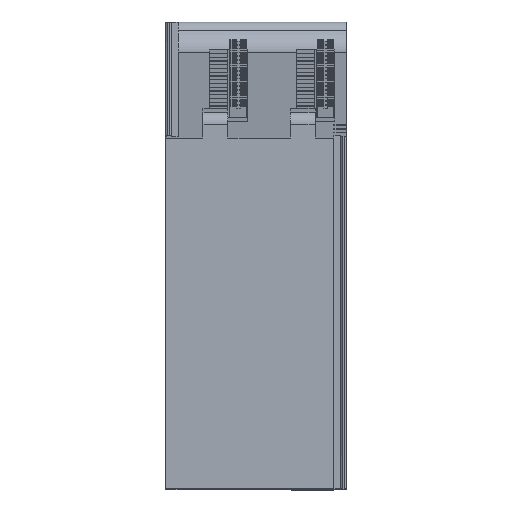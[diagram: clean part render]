
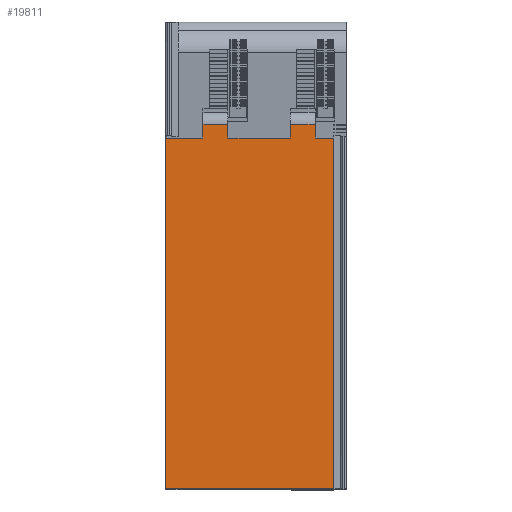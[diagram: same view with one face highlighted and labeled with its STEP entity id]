
A CAD part, top view. The second image highlights one B-rep face of the part: STEP entity #19811.
In plain terms, the highlighted planar face has unit normal (0, 0, 1).
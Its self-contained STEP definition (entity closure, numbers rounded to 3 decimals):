
#1621 = ORIENTED_EDGE ( 'NONE', *, *, #38552, .F. ) ;
#1931 = CARTESIAN_POINT ( 'NONE',  ( 1822.723, 58.452, -1179.942 ) ) ;
#3445 = VECTOR ( 'NONE', #11167, 1000. ) ;
#3953 = VERTEX_POINT ( 'NONE', #38176 ) ;
#4373 = CARTESIAN_POINT ( 'NONE',  ( 1843.723, 75., -1179.942 ) ) ;
#4802 = EDGE_CURVE ( 'NONE', #42521, #29170, #34563, .T. ) ;
#4911 = LINE ( 'NONE', #18488, #41692 ) ;
#5102 = DIRECTION ( 'NONE',  ( 0., 0., -1. ) ) ;
#5401 = VECTOR ( 'NONE', #38095, 1000. ) ;
#6180 = LINE ( 'NONE', #1931, #53610 ) ;
#6232 = CARTESIAN_POINT ( 'NONE',  ( 1836.723, 56.25, -1179.942 ) ) ;
#7280 = EDGE_CURVE ( 'NONE', #42521, #52522, #4911, .T. ) ;
#8080 = CARTESIAN_POINT ( 'NONE',  ( 1826.723, 58.452, -1179.942 ) ) ;
#8088 = CARTESIAN_POINT ( 'NONE',  ( 1826.723, 56.25, -1179.942 ) ) ;
#8846 = VERTEX_POINT ( 'NONE', #22829 ) ;
#9606 = EDGE_CURVE ( 'NONE', #17172, #3953, #13632, .T. ) ;
#9631 = VECTOR ( 'NONE', #11575, 1000. ) ;
#9694 = ORIENTED_EDGE ( 'NONE', *, *, #52370, .T. ) ;
#10248 = CARTESIAN_POINT ( 'NONE',  ( 1836.723, 58.452, -1179.942 ) ) ;
#10611 = LINE ( 'NONE', #23644, #3445 ) ;
#11167 = DIRECTION ( 'NONE',  ( 1., 0., 0. ) ) ;
#11575 = DIRECTION ( 'NONE',  ( 0., -1., 0. ) ) ;
#11660 = CARTESIAN_POINT ( 'NONE',  ( 1816.723, 0., -1179.942 ) ) ;
#11718 = LINE ( 'NONE', #46289, #48793 ) ;
#12054 = ORIENTED_EDGE ( 'NONE', *, *, #48076, .T. ) ;
#12679 = VECTOR ( 'NONE', #16444, 1000. ) ;
#13632 = LINE ( 'NONE', #39693, #49732 ) ;
#13704 = ORIENTED_EDGE ( 'NONE', *, *, #7280, .T. ) ;
#13772 = EDGE_CURVE ( 'NONE', #3953, #8846, #11718, .T. ) ;
#16266 = DIRECTION ( 'NONE',  ( 1., 0., 0. ) ) ;
#16444 = DIRECTION ( 'NONE',  ( 1., 0., 0. ) ) ;
#16483 = DIRECTION ( 'NONE',  ( 0., -1., 0. ) ) ;
#17139 = CARTESIAN_POINT ( 'NONE',  ( 1822.723, 58.452, -1179.942 ) ) ;
#17172 = VERTEX_POINT ( 'NONE', #44332 ) ;
#18488 = CARTESIAN_POINT ( 'NONE',  ( 1816.723, 75., -1179.942 ) ) ;
#19324 = CARTESIAN_POINT ( 'NONE',  ( 1822.723, 56.25, -1179.942 ) ) ;
#19811 = ADVANCED_FACE ( 'NONE', ( #25502 ), #43070, .F. ) ;
#19961 = LINE ( 'NONE', #28445, #30136 ) ;
#21679 = VECTOR ( 'NONE', #23573, 1000. ) ;
#22133 = DIRECTION ( 'NONE',  ( 0., -1., 0. ) ) ;
#22367 = DIRECTION ( 'NONE',  ( -1., 0., 0. ) ) ;
#22829 = CARTESIAN_POINT ( 'NONE',  ( 1843.723, 56.25, -1179.942 ) ) ;
#23573 = DIRECTION ( 'NONE',  ( 0., -1., 0. ) ) ;
#23644 = CARTESIAN_POINT ( 'NONE',  ( 1836.723, 58.452, -1179.942 ) ) ;
#23780 = CARTESIAN_POINT ( 'NONE',  ( 1822.723, 56.25, -1179.942 ) ) ;
#23796 = ORIENTED_EDGE ( 'NONE', *, *, #40575, .F. ) ;
#23887 = EDGE_CURVE ( 'NONE', #47124, #51296, #50567, .T. ) ;
#24326 = LINE ( 'NONE', #6232, #9631 ) ;
#24747 = DIRECTION ( 'NONE',  ( 1., 0., 0. ) ) ;
#25502 = FACE_OUTER_BOUND ( 'NONE', #49530, .T. ) ;
#26703 = CARTESIAN_POINT ( 'NONE',  ( 1836.723, 56.25, -1179.942 ) ) ;
#26987 = LINE ( 'NONE', #19324, #21679 ) ;
#27225 = VERTEX_POINT ( 'NONE', #17139 ) ;
#27244 = VERTEX_POINT ( 'NONE', #8080 ) ;
#27816 = ORIENTED_EDGE ( 'NONE', *, *, #42277, .F. ) ;
#28445 = CARTESIAN_POINT ( 'NONE',  ( 1816.723, 0., -1179.942 ) ) ;
#29170 = VERTEX_POINT ( 'NONE', #23780 ) ;
#29858 = DIRECTION ( 'NONE',  ( 0., -1., 0. ) ) ;
#30136 = VECTOR ( 'NONE', #16266, 1000. ) ;
#32784 = VERTEX_POINT ( 'NONE', #36749 ) ;
#33808 = VECTOR ( 'NONE', #29858, 1000. ) ;
#34000 = CARTESIAN_POINT ( 'NONE',  ( 1816.723, 75., -1179.942 ) ) ;
#34563 = LINE ( 'NONE', #52127, #12679 ) ;
#36448 = ORIENTED_EDGE ( 'NONE', *, *, #42168, .T. ) ;
#36749 = CARTESIAN_POINT ( 'NONE',  ( 1843.723, 0., -1179.942 ) ) ;
#37817 = CARTESIAN_POINT ( 'NONE',  ( 1816.723, 56.25, -1179.942 ) ) ;
#38095 = DIRECTION ( 'NONE',  ( 1., 0., 0. ) ) ;
#38176 = CARTESIAN_POINT ( 'NONE',  ( 1840.723, 56.25, -1179.942 ) ) ;
#38352 = LINE ( 'NONE', #4373, #33808 ) ;
#38552 = EDGE_CURVE ( 'NONE', #45650, #17172, #10611, .T. ) ;
#39693 = CARTESIAN_POINT ( 'NONE',  ( 1840.723, 56.25, -1179.942 ) ) ;
#40575 = EDGE_CURVE ( 'NONE', #27225, #27244, #6180, .T. ) ;
#41271 = ORIENTED_EDGE ( 'NONE', *, *, #13772, .F. ) ;
#41692 = VECTOR ( 'NONE', #52769, 1000. ) ;
#42168 = EDGE_CURVE ( 'NONE', #52522, #32784, #19961, .T. ) ;
#42277 = EDGE_CURVE ( 'NONE', #8846, #32784, #38352, .T. ) ;
#42521 = VERTEX_POINT ( 'NONE', #46245 ) ;
#42668 = EDGE_CURVE ( 'NONE', #27244, #47124, #47352, .T. ) ;
#43070 = PLANE ( 'NONE',  #45826 ) ;
#44332 = CARTESIAN_POINT ( 'NONE',  ( 1840.723, 58.452, -1179.942 ) ) ;
#45650 = VERTEX_POINT ( 'NONE', #10248 ) ;
#45826 = AXIS2_PLACEMENT_3D ( 'NONE', #34000, #5102, #22367 ) ;
#46245 = CARTESIAN_POINT ( 'NONE',  ( 1816.723, 56.25, -1179.942 ) ) ;
#46263 = ORIENTED_EDGE ( 'NONE', *, *, #42668, .F. ) ;
#46289 = CARTESIAN_POINT ( 'NONE',  ( 1816.723, 56.25, -1179.942 ) ) ;
#46961 = ORIENTED_EDGE ( 'NONE', *, *, #4802, .F. ) ;
#47124 = VERTEX_POINT ( 'NONE', #8088 ) ;
#47352 = LINE ( 'NONE', #51045, #51011 ) ;
#47928 = ORIENTED_EDGE ( 'NONE', *, *, #23887, .F. ) ;
#48076 = EDGE_CURVE ( 'NONE', #45650, #51296, #24326, .T. ) ;
#48308 = ORIENTED_EDGE ( 'NONE', *, *, #9606, .F. ) ;
#48793 = VECTOR ( 'NONE', #24747, 1000. ) ;
#49229 = DIRECTION ( 'NONE',  ( 1., 0., 0. ) ) ;
#49530 = EDGE_LOOP ( 'NONE', ( #27816, #41271, #48308, #1621, #12054, #47928, #46263, #23796, #9694, #46961, #13704, #36448 ) ) ;
#49732 = VECTOR ( 'NONE', #22133, 1000. ) ;
#50567 = LINE ( 'NONE', #37817, #5401 ) ;
#51011 = VECTOR ( 'NONE', #16483, 1000. ) ;
#51045 = CARTESIAN_POINT ( 'NONE',  ( 1826.723, 56.25, -1179.942 ) ) ;
#51296 = VERTEX_POINT ( 'NONE', #26703 ) ;
#52127 = CARTESIAN_POINT ( 'NONE',  ( 1816.723, 56.25, -1179.942 ) ) ;
#52370 = EDGE_CURVE ( 'NONE', #27225, #29170, #26987, .T. ) ;
#52522 = VERTEX_POINT ( 'NONE', #11660 ) ;
#52769 = DIRECTION ( 'NONE',  ( 0., -1., 0. ) ) ;
#53610 = VECTOR ( 'NONE', #49229, 1000. ) ;
